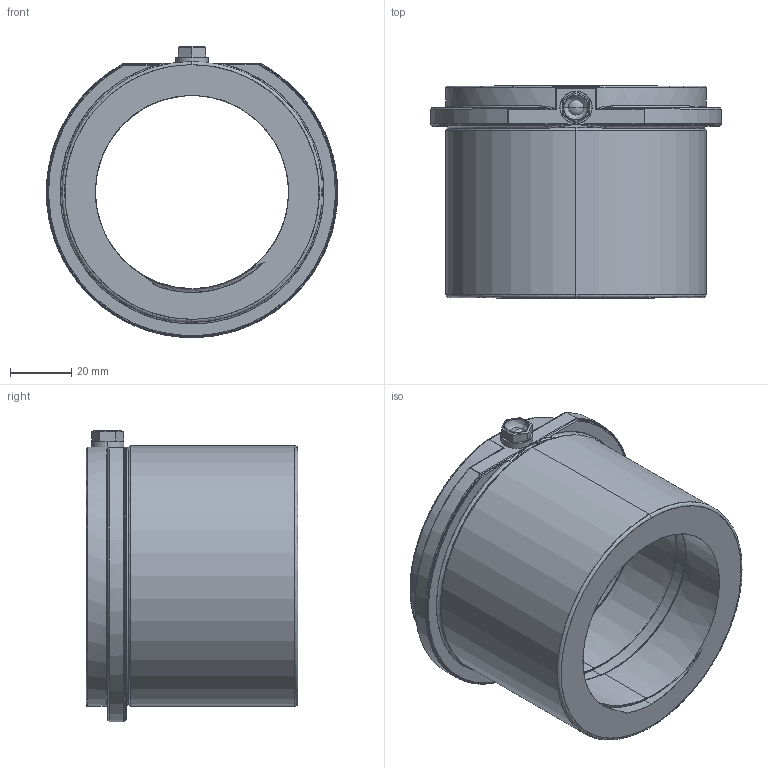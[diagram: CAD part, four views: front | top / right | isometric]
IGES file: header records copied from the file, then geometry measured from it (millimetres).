
Start section: SolidWorks IGES file using analytic representation for surfaces
Global section: file name: C:\Documents and Settings\kalite-mail\Desktop\HAZIR PARÇALAR\D24 Katý Model(son kontrolu yapýlacak)\D24 ÝGS\D24 63x56K.IGS; native system: SolidWorks 2008; preprocessor: SolidWorks 2008; author: kalite-mail; date: 080716.104335; units: millimetre
Bounding box: 94.96 x 69 x 95 mm (x, y, z)
Surface area: 41795.6 mm2 (no closed solid volume)
Topology: 0 solids, 0 shells, 123 faces, 2135 edges, 2123 vertices
Faces by surface type: bspline 67, revolution 56
